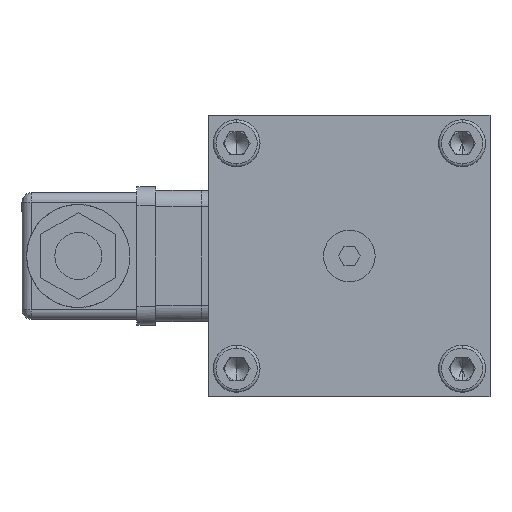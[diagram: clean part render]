
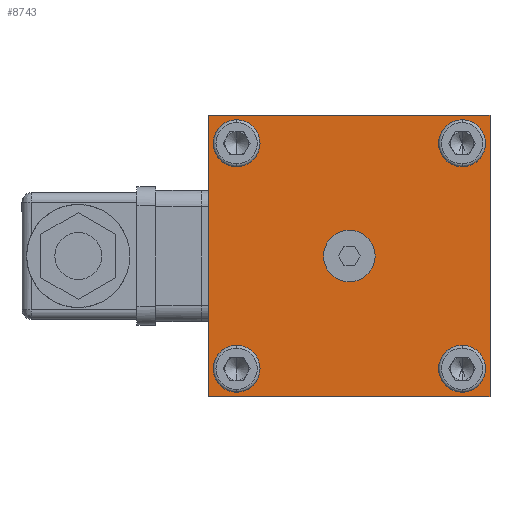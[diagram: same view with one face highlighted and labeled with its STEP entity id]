
A CAD part, left-side view. The second image highlights one B-rep face of the part: STEP entity #8743.
In plain terms, the highlighted planar face has unit normal (-1, 0, 0).
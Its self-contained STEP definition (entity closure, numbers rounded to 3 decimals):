
#229 = DIRECTION ( 'NONE',  ( -1., 0., 0. ) ) ;
#371 = VERTEX_POINT ( 'NONE', #14171 ) ;
#425 = CARTESIAN_POINT ( 'NONE',  ( -83.4, 30., -30. ) ) ;
#727 = DIRECTION ( 'NONE',  ( -1., 0., 0. ) ) ;
#920 = AXIS2_PLACEMENT_3D ( 'NONE', #8294, #15976, #10674 ) ;
#929 = CARTESIAN_POINT ( 'NONE',  ( -83.4, 24.04, 24.04 ) ) ;
#954 = CARTESIAN_POINT ( 'NONE',  ( -83.4, -24.04, 19.04 ) ) ;
#1120 = VERTEX_POINT ( 'NONE', #425 ) ;
#1162 = ORIENTED_EDGE ( 'NONE', *, *, #7233, .F. ) ;
#1240 = AXIS2_PLACEMENT_3D ( 'NONE', #5715, #727, #14565 ) ;
#1491 = CIRCLE ( 'NONE', #10738, 5. ) ;
#1571 = CARTESIAN_POINT ( 'NONE',  ( -83.4, 30., 30. ) ) ;
#1582 = DIRECTION ( 'NONE',  ( 0., -1., 0. ) ) ;
#1618 = ORIENTED_EDGE ( 'NONE', *, *, #2326, .F. ) ;
#1635 = DIRECTION ( 'NONE',  ( 0., 0., 1. ) ) ;
#1754 = VECTOR ( 'NONE', #2861, 1000. ) ;
#1867 = EDGE_LOOP ( 'NONE', ( #6501, #12106 ) ) ;
#2317 = DIRECTION ( 'NONE',  ( 0., 0., 1. ) ) ;
#2326 = EDGE_CURVE ( 'NONE', #9558, #8430, #1491, .T. ) ;
#2351 = VERTEX_POINT ( 'NONE', #10015 ) ;
#2515 = AXIS2_PLACEMENT_3D ( 'NONE', #5547, #9229, #1635 ) ;
#2861 = DIRECTION ( 'NONE',  ( 0., 0., -1. ) ) ;
#3151 = EDGE_LOOP ( 'NONE', ( #1618, #14389 ) ) ;
#3261 = FACE_BOUND ( 'NONE', #1867, .T. ) ;
#3319 = CIRCLE ( 'NONE', #12579, 5. ) ;
#3441 = CARTESIAN_POINT ( 'NONE',  ( -83.4, -24.04, -24.04 ) ) ;
#3537 = DIRECTION ( 'NONE',  ( 0., 0., 1. ) ) ;
#3597 = CARTESIAN_POINT ( 'NONE',  ( -83.4, 24.04, 24.04 ) ) ;
#3689 = CARTESIAN_POINT ( 'NONE',  ( -83.4, 24.04, -29.04 ) ) ;
#3736 = EDGE_CURVE ( 'NONE', #5509, #7465, #9693, .T. ) ;
#4008 = EDGE_LOOP ( 'NONE', ( #16305, #11231, #12217, #8631 ) ) ;
#4024 = EDGE_CURVE ( 'NONE', #8122, #1120, #4379, .T. ) ;
#4047 = EDGE_CURVE ( 'NONE', #371, #7563, #16034, .T. ) ;
#4379 = LINE ( 'NONE', #10648, #1754 ) ;
#4887 = DIRECTION ( 'NONE',  ( 0., 0., 1. ) ) ;
#5489 = DIRECTION ( 'NONE',  ( 0., 1., 0. ) ) ;
#5509 = VERTEX_POINT ( 'NONE', #954 ) ;
#5547 = CARTESIAN_POINT ( 'NONE',  ( -83.4, 0., 0. ) ) ;
#5703 = FACE_OUTER_BOUND ( 'NONE', #4008, .T. ) ;
#5715 = CARTESIAN_POINT ( 'NONE',  ( -83.4, 0., 0. ) ) ;
#5992 = EDGE_CURVE ( 'NONE', #7563, #371, #11775, .T. ) ;
#6008 = CARTESIAN_POINT ( 'NONE',  ( -83.4, -30., -30. ) ) ;
#6123 = VERTEX_POINT ( 'NONE', #8668 ) ;
#6144 = EDGE_LOOP ( 'NONE', ( #9817, #7710 ) ) ;
#6249 = AXIS2_PLACEMENT_3D ( 'NONE', #3597, #13712, #12526 ) ;
#6286 = EDGE_CURVE ( 'NONE', #6123, #2351, #3319, .T. ) ;
#6501 = ORIENTED_EDGE ( 'NONE', *, *, #6286, .F. ) ;
#6696 = EDGE_CURVE ( 'NONE', #10944, #8695, #7980, .T. ) ;
#6877 = VERTEX_POINT ( 'NONE', #8297 ) ;
#7094 = CARTESIAN_POINT ( 'NONE',  ( -83.4, -30., 30. ) ) ;
#7169 = CARTESIAN_POINT ( 'NONE',  ( -83.4, 0., 0. ) ) ;
#7233 = EDGE_CURVE ( 'NONE', #15870, #6877, #8656, .T. ) ;
#7275 = DIRECTION ( 'NONE',  ( -1., 0., 0. ) ) ;
#7390 = EDGE_LOOP ( 'NONE', ( #15539, #1162 ) ) ;
#7465 = VERTEX_POINT ( 'NONE', #11708 ) ;
#7563 = VERTEX_POINT ( 'NONE', #9222 ) ;
#7710 = ORIENTED_EDGE ( 'NONE', *, *, #5992, .F. ) ;
#7863 = DIRECTION ( 'NONE',  ( 0., 0., 1. ) ) ;
#7980 = LINE ( 'NONE', #8953, #10476 ) ;
#8076 = CIRCLE ( 'NONE', #920, 5. ) ;
#8122 = VERTEX_POINT ( 'NONE', #1571 ) ;
#8294 = CARTESIAN_POINT ( 'NONE',  ( -83.4, 24.04, -24.04 ) ) ;
#8297 = CARTESIAN_POINT ( 'NONE',  ( -83.4, 24.04, -19.04 ) ) ;
#8335 = FACE_BOUND ( 'NONE', #6144, .T. ) ;
#8429 = DIRECTION ( 'NONE',  ( 0., 0., 1. ) ) ;
#8430 = VERTEX_POINT ( 'NONE', #11240 ) ;
#8514 = EDGE_CURVE ( 'NONE', #7465, #5509, #14490, .T. ) ;
#8631 = ORIENTED_EDGE ( 'NONE', *, *, #10209, .T. ) ;
#8656 = CIRCLE ( 'NONE', #10769, 5. ) ;
#8668 = CARTESIAN_POINT ( 'NONE',  ( -83.4, -24.04, -19.04 ) ) ;
#8695 = VERTEX_POINT ( 'NONE', #7094 ) ;
#8743 = ADVANCED_FACE ( 'NONE', ( #10566, #3261, #5703, #8335, #11797, #15619 ), #10729, .T. ) ;
#8747 = CARTESIAN_POINT ( 'NONE',  ( -83.4, 24.04, -24.04 ) ) ;
#8953 = CARTESIAN_POINT ( 'NONE',  ( -83.4, -30., -30. ) ) ;
#9222 = CARTESIAN_POINT ( 'NONE',  ( -83.4, 0., -5.5 ) ) ;
#9229 = DIRECTION ( 'NONE',  ( -1., 0., 0. ) ) ;
#9298 = EDGE_CURVE ( 'NONE', #2351, #6123, #13837, .T. ) ;
#9472 = EDGE_LOOP ( 'NONE', ( #14885, #15902 ) ) ;
#9558 = VERTEX_POINT ( 'NONE', #15687 ) ;
#9693 = CIRCLE ( 'NONE', #13398, 5. ) ;
#9817 = ORIENTED_EDGE ( 'NONE', *, *, #4047, .F. ) ;
#9847 = DIRECTION ( 'NONE',  ( -1., 0., 0. ) ) ;
#10015 = CARTESIAN_POINT ( 'NONE',  ( -83.4, -24.04, -29.04 ) ) ;
#10159 = VECTOR ( 'NONE', #1582, 1000. ) ;
#10178 = CIRCLE ( 'NONE', #6249, 5. ) ;
#10209 = EDGE_CURVE ( 'NONE', #1120, #10944, #15395, .T. ) ;
#10476 = VECTOR ( 'NONE', #11428, 1000. ) ;
#10566 = FACE_BOUND ( 'NONE', #7390, .T. ) ;
#10648 = CARTESIAN_POINT ( 'NONE',  ( -83.4, 30., 30. ) ) ;
#10674 = DIRECTION ( 'NONE',  ( 0., 0., 1. ) ) ;
#10729 = PLANE ( 'NONE',  #13151 ) ;
#10738 = AXIS2_PLACEMENT_3D ( 'NONE', #929, #9847, #2317 ) ;
#10769 = AXIS2_PLACEMENT_3D ( 'NONE', #8747, #7275, #3537 ) ;
#10823 = DIRECTION ( 'NONE',  ( -1., 0., 0. ) ) ;
#10944 = VERTEX_POINT ( 'NONE', #6008 ) ;
#11095 = EDGE_CURVE ( 'NONE', #6877, #15870, #8076, .T. ) ;
#11231 = ORIENTED_EDGE ( 'NONE', *, *, #13722, .T. ) ;
#11240 = CARTESIAN_POINT ( 'NONE',  ( -83.4, 24.04, 19.04 ) ) ;
#11304 = DIRECTION ( 'NONE',  ( -1., 0., 0. ) ) ;
#11428 = DIRECTION ( 'NONE',  ( 0., 0., 1. ) ) ;
#11443 = DIRECTION ( 'NONE',  ( -1., 0., 0. ) ) ;
#11558 = CARTESIAN_POINT ( 'NONE',  ( -83.4, -24.04, 24.04 ) ) ;
#11670 = LINE ( 'NONE', #13932, #15401 ) ;
#11708 = CARTESIAN_POINT ( 'NONE',  ( -83.4, -24.04, 29.04 ) ) ;
#11775 = CIRCLE ( 'NONE', #2515, 5.5 ) ;
#11797 = FACE_BOUND ( 'NONE', #3151, .T. ) ;
#12093 = AXIS2_PLACEMENT_3D ( 'NONE', #11558, #229, #7863 ) ;
#12106 = ORIENTED_EDGE ( 'NONE', *, *, #9298, .F. ) ;
#12217 = ORIENTED_EDGE ( 'NONE', *, *, #4024, .T. ) ;
#12403 = DIRECTION ( 'NONE',  ( -1., 0., 0. ) ) ;
#12475 = EDGE_CURVE ( 'NONE', #8430, #9558, #10178, .T. ) ;
#12526 = DIRECTION ( 'NONE',  ( 0., 0., 1. ) ) ;
#12579 = AXIS2_PLACEMENT_3D ( 'NONE', #3441, #10823, #8429 ) ;
#13151 = AXIS2_PLACEMENT_3D ( 'NONE', #7169, #11304, #14872 ) ;
#13398 = AXIS2_PLACEMENT_3D ( 'NONE', #14907, #12403, #4887 ) ;
#13561 = AXIS2_PLACEMENT_3D ( 'NONE', #16342, #11443, #13622 ) ;
#13622 = DIRECTION ( 'NONE',  ( 0., 0., 1. ) ) ;
#13712 = DIRECTION ( 'NONE',  ( -1., 0., 0. ) ) ;
#13722 = EDGE_CURVE ( 'NONE', #8695, #8122, #11670, .T. ) ;
#13837 = CIRCLE ( 'NONE', #13561, 5. ) ;
#13932 = CARTESIAN_POINT ( 'NONE',  ( -83.4, -30., 30. ) ) ;
#14005 = CARTESIAN_POINT ( 'NONE',  ( -83.4, 30., -30. ) ) ;
#14171 = CARTESIAN_POINT ( 'NONE',  ( -83.4, 0., 5.5 ) ) ;
#14389 = ORIENTED_EDGE ( 'NONE', *, *, #12475, .F. ) ;
#14490 = CIRCLE ( 'NONE', #12093, 5. ) ;
#14565 = DIRECTION ( 'NONE',  ( 0., 0., 1. ) ) ;
#14872 = DIRECTION ( 'NONE',  ( 0., 0., 1. ) ) ;
#14885 = ORIENTED_EDGE ( 'NONE', *, *, #8514, .F. ) ;
#14907 = CARTESIAN_POINT ( 'NONE',  ( -83.4, -24.04, 24.04 ) ) ;
#15395 = LINE ( 'NONE', #14005, #10159 ) ;
#15401 = VECTOR ( 'NONE', #5489, 1000. ) ;
#15539 = ORIENTED_EDGE ( 'NONE', *, *, #11095, .F. ) ;
#15619 = FACE_BOUND ( 'NONE', #9472, .T. ) ;
#15687 = CARTESIAN_POINT ( 'NONE',  ( -83.4, 24.04, 29.04 ) ) ;
#15870 = VERTEX_POINT ( 'NONE', #3689 ) ;
#15902 = ORIENTED_EDGE ( 'NONE', *, *, #3736, .F. ) ;
#15976 = DIRECTION ( 'NONE',  ( -1., 0., 0. ) ) ;
#16034 = CIRCLE ( 'NONE', #1240, 5.5 ) ;
#16305 = ORIENTED_EDGE ( 'NONE', *, *, #6696, .T. ) ;
#16342 = CARTESIAN_POINT ( 'NONE',  ( -83.4, -24.04, -24.04 ) ) ;
